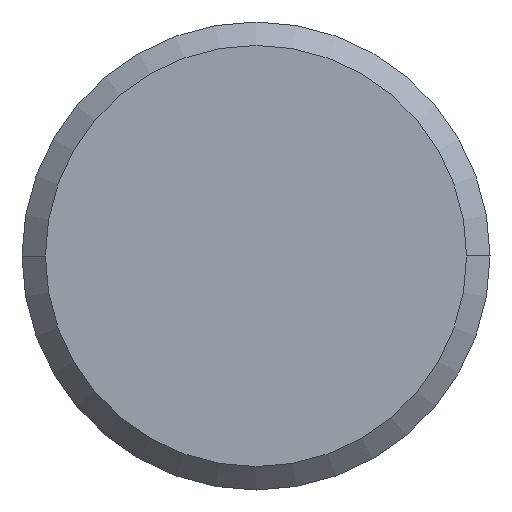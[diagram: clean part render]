
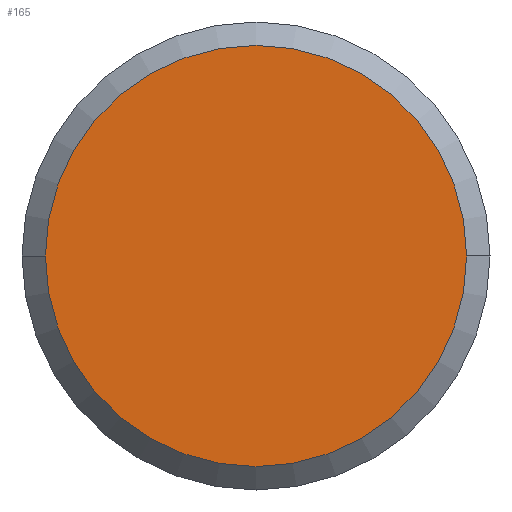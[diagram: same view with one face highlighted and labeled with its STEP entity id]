
A CAD part, left-side view. The second image highlights one B-rep face of the part: STEP entity #165.
In plain terms, the highlighted planar face has unit normal (-1, 0, 0).
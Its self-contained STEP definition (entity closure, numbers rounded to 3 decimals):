
#19 = ORIENTED_EDGE ( 'NONE', *, *, #41, .F. ) ;
#41 = EDGE_CURVE ( 'NONE', #240, #77, #463, .T. ) ;
#59 = EDGE_CURVE ( 'NONE', #77, #240, #82, .T. ) ;
#62 = DIRECTION ( 'NONE',  ( 0., -1., 0. ) ) ;
#63 = AXIS2_PLACEMENT_3D ( 'NONE', #310, #100, #343 ) ;
#77 = VERTEX_POINT ( 'NONE', #270 ) ;
#82 = CIRCLE ( 'NONE', #63, 4.5 ) ;
#91 = DIRECTION ( 'NONE',  ( 1., 0., 0. ) ) ;
#100 = DIRECTION ( 'NONE',  ( 1., 0., 0. ) ) ;
#165 = ADVANCED_FACE ( 'NONE', ( #326 ), #277, .T. ) ;
#223 = EDGE_LOOP ( 'NONE', ( #19, #321 ) ) ;
#240 = VERTEX_POINT ( 'NONE', #462 ) ;
#270 = CARTESIAN_POINT ( 'NONE',  ( -48., -4.5, 0. ) ) ;
#276 = DIRECTION ( 'NONE',  ( -1., 0., 0. ) ) ;
#277 = PLANE ( 'NONE',  #347 ) ;
#310 = CARTESIAN_POINT ( 'NONE',  ( -48., 0., 0. ) ) ;
#321 = ORIENTED_EDGE ( 'NONE', *, *, #59, .F. ) ;
#326 = FACE_OUTER_BOUND ( 'NONE', #223, .T. ) ;
#343 = DIRECTION ( 'NONE',  ( 0., 1., 0. ) ) ;
#347 = AXIS2_PLACEMENT_3D ( 'NONE', #379, #276, #62 ) ;
#379 = CARTESIAN_POINT ( 'NONE',  ( -48., 0., 0. ) ) ;
#399 = DIRECTION ( 'NONE',  ( 0., 1., 0. ) ) ;
#447 = AXIS2_PLACEMENT_3D ( 'NONE', #456, #91, #399 ) ;
#456 = CARTESIAN_POINT ( 'NONE',  ( -48., 0., 0. ) ) ;
#462 = CARTESIAN_POINT ( 'NONE',  ( -48., 4.5, 0. ) ) ;
#463 = CIRCLE ( 'NONE', #447, 4.5 ) ;
